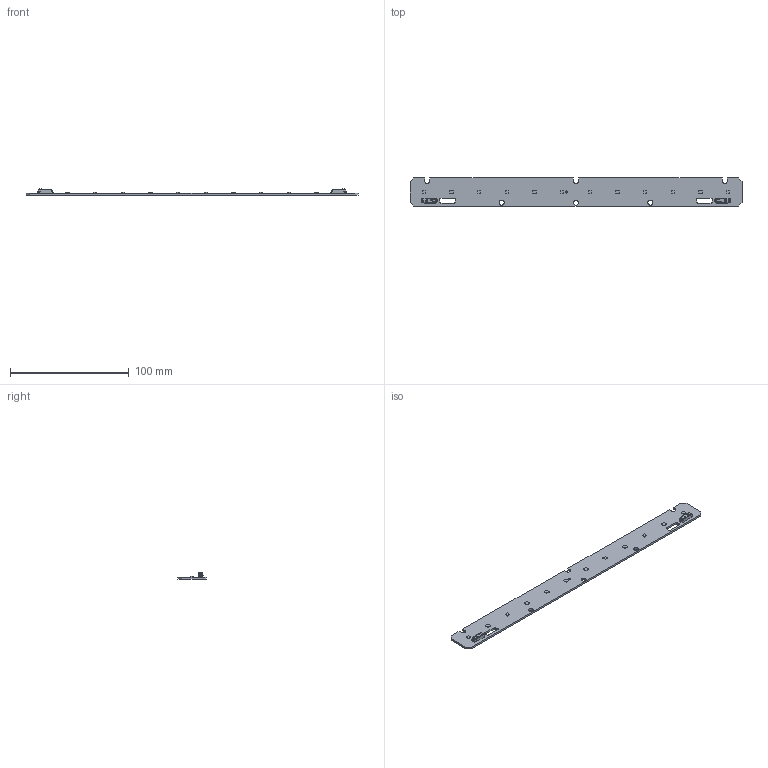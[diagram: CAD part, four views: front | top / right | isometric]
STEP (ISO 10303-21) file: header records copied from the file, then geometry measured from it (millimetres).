
FILE_DESCRIPTION((''),'2;1');
FILE_NAME('16208804_LLE-G5-24X280-650LM','2018-08-21T11:13:58',('bernhard.fink'),(''),'CREO PARAMETRIC BY PTC INC, 2017380','CREO PARAMETRIC BY PTC INC, 2017380','');
FILE_SCHEMA(('AUTOMOTIVE_DESIGN { 1 0 10303 214 1 1 1 1 }'));
Length unit declared in the file: millimetre
Products named in the file (1): 16208804_LLE-G5-24X280-650LM
Bounding box: 279 x 23.6 x 5.1 mm (x, y, z)
Volume: 10787.7 mm3; surface area: 14392.1 mm2
Topology: 1 solids, 1 shells, 643 faces, 1682 edges, 1056 vertices
Faces by surface type: plane 284, cylinder 181, bspline 120, cone 34, torus 12, sphere 12
Entity records: 34147 total; most frequent: CARTESIAN_POINT 9451, ORIENTED_EDGE 3336, DIRECTION 2614, PRESENTATION_STYLE_ASSIGNMENT 2312, STYLED_ITEM 1669, CURVE_STYLE 1668, EDGE_CURVE 1668, VERTEX_POINT 1054
